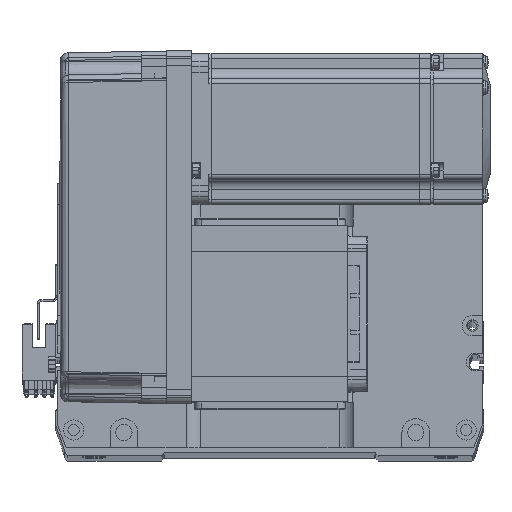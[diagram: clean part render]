
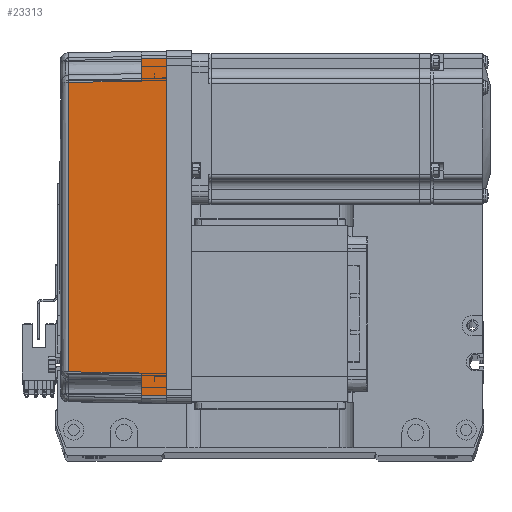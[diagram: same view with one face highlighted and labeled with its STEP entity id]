
A CAD part, top view. The second image highlights one B-rep face of the part: STEP entity #23313.
In plain terms, the highlighted planar face has unit normal (-0.018, 0, 1) as drawn and (0, 1, 0.017) by its records, which use the part's own axes.
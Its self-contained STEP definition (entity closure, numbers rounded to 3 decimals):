
#991 = ORIENTED_EDGE ( 'NONE', *, *, #30152, .T. ) ;
#993 = CARTESIAN_POINT ( 'NONE',  ( 57.495, 35.32, 38.985 ) ) ;
#1285 = VECTOR ( 'NONE', #43848, 1000. ) ;
#1771 = AXIS2_PLACEMENT_3D ( 'NONE', #36683, #2119, #32144 ) ;
#1834 = EDGE_CURVE ( 'NONE', #41063, #12658, #15499, .T. ) ;
#2119 = DIRECTION ( 'NONE',  ( 0., 1., 0.017 ) ) ;
#2240 = VERTEX_POINT ( 'NONE', #12297 ) ;
#2724 = EDGE_CURVE ( 'NONE', #58835, #6619, #10722, .T. ) ;
#2737 = CARTESIAN_POINT ( 'NONE',  ( -67., 36., 0. ) ) ;
#4429 = CARTESIAN_POINT ( 'NONE',  ( 57.495, 35.32, 38.985 ) ) ;
#5240 = VERTEX_POINT ( 'NONE', #993 ) ;
#5956 = LINE ( 'NONE', #50220, #33223 ) ;
#6315 = DIRECTION ( 'NONE',  ( 1., 0., 0. ) ) ;
#6383 = CARTESIAN_POINT ( 'NONE',  ( -66.826, 35.825, 10. ) ) ;
#6619 = VERTEX_POINT ( 'NONE', #30686 ) ;
#6959 = VECTOR ( 'NONE', #14252, 1000. ) ;
#7512 = VERTEX_POINT ( 'NONE', #6383 ) ;
#8087 = CARTESIAN_POINT ( 'NONE',  ( -19.165, 35.316, 39.181 ) ) ;
#10191 = LINE ( 'NONE', #35873, #21810 ) ;
#10722 = LINE ( 'NONE', #27002, #48908 ) ;
#12297 = CARTESIAN_POINT ( 'NONE',  ( 58., 35.825, 10. ) ) ;
#12433 = DIRECTION ( 'NONE',  ( -0.017, -0.017, 1. ) ) ;
#12658 = VERTEX_POINT ( 'NONE', #18657 ) ;
#12694 = CARTESIAN_POINT ( 'NONE',  ( 19.165, 35.316, 39.181 ) ) ;
#12971 = EDGE_CURVE ( 'NONE', #7512, #41063, #63685, .T. ) ;
#13140 = DIRECTION ( 'NONE',  ( 1., 0., 0. ) ) ;
#14252 = DIRECTION ( 'NONE',  ( 0.017, -0.017, 1. ) ) ;
#14853 = CARTESIAN_POINT ( 'NONE',  ( 70., 35.825, 10. ) ) ;
#14893 = B_SPLINE_CURVE_WITH_KNOTS ( 'NONE', 3,
 ( #38093, #8087, #12694, #62557 ),
 .UNSPECIFIED., .F., .F.,
 ( 4, 4 ),
 ( 0., 1. ),
 .UNSPECIFIED. ) ;
#15499 = LINE ( 'NONE', #49315, #6959 ) ;
#17296 = CARTESIAN_POINT ( 'NONE',  ( 67., 36., 0. ) ) ;
#18598 = LINE ( 'NONE', #62835, #58387 ) ;
#18657 = CARTESIAN_POINT ( 'NONE',  ( -57.495, 35.32, 38.985 ) ) ;
#19057 = ORIENTED_EDGE ( 'NONE', *, *, #26815, .T. ) ;
#20315 = DIRECTION ( 'NONE',  ( 0.017, -0.017, 1. ) ) ;
#21225 = ORIENTED_EDGE ( 'NONE', *, *, #33577, .F. ) ;
#21810 = VECTOR ( 'NONE', #6315, 1000. ) ;
#23313 = ADVANCED_FACE ( 'NONE', ( #42713 ), #56357, .T. ) ;
#23608 = DIRECTION ( 'NONE',  ( 0.017, 0.017, -1. ) ) ;
#23980 = LINE ( 'NONE', #4429, #46611 ) ;
#25058 = ORIENTED_EDGE ( 'NONE', *, *, #1834, .T. ) ;
#26815 = EDGE_CURVE ( 'NONE', #12658, #5240, #14893, .T. ) ;
#27002 = CARTESIAN_POINT ( 'NONE',  ( 67.001, 36.001, -0.052 ) ) ;
#27318 = ORIENTED_EDGE ( 'NONE', *, *, #12971, .T. ) ;
#30152 = EDGE_CURVE ( 'NONE', #58874, #7512, #5956, .T. ) ;
#30686 = CARTESIAN_POINT ( 'NONE',  ( 66.826, 35.825, 10. ) ) ;
#32144 = DIRECTION ( 'NONE',  ( 0., -0.017, 1. ) ) ;
#33100 = EDGE_CURVE ( 'NONE', #2240, #6619, #10191, .T. ) ;
#33223 = VECTOR ( 'NONE', #20315, 1000. ) ;
#33577 = EDGE_CURVE ( 'NONE', #58874, #58835, #18598, .T. ) ;
#35873 = CARTESIAN_POINT ( 'NONE',  ( 70., 35.825, 10. ) ) ;
#36189 = ORIENTED_EDGE ( 'NONE', *, *, #2724, .F. ) ;
#36683 = CARTESIAN_POINT ( 'NONE',  ( 70., 36., 0. ) ) ;
#38093 = CARTESIAN_POINT ( 'NONE',  ( -57.495, 35.32, 38.985 ) ) ;
#41063 = VERTEX_POINT ( 'NONE', #55446 ) ;
#42713 = FACE_OUTER_BOUND ( 'NONE', #49334, .T. ) ;
#43848 = DIRECTION ( 'NONE',  ( 1., 0., 0. ) ) ;
#46611 = VECTOR ( 'NONE', #23608, 1000. ) ;
#47077 = ORIENTED_EDGE ( 'NONE', *, *, #33100, .T. ) ;
#48908 = VECTOR ( 'NONE', #12433, 1000. ) ;
#49315 = CARTESIAN_POINT ( 'NONE',  ( -58., 35.825, 10. ) ) ;
#49334 = EDGE_LOOP ( 'NONE', ( #991, #27318, #25058, #19057, #54148, #47077, #36189, #21225 ) ) ;
#50220 = CARTESIAN_POINT ( 'NONE',  ( -67., 36., 0. ) ) ;
#53064 = EDGE_CURVE ( 'NONE', #5240, #2240, #23980, .T. ) ;
#54148 = ORIENTED_EDGE ( 'NONE', *, *, #53064, .T. ) ;
#55446 = CARTESIAN_POINT ( 'NONE',  ( -58., 35.825, 10. ) ) ;
#56357 = PLANE ( 'NONE',  #1771 ) ;
#58387 = VECTOR ( 'NONE', #13140, 1000. ) ;
#58835 = VERTEX_POINT ( 'NONE', #17296 ) ;
#58874 = VERTEX_POINT ( 'NONE', #2737 ) ;
#62557 = CARTESIAN_POINT ( 'NONE',  ( 57.495, 35.32, 38.985 ) ) ;
#62835 = CARTESIAN_POINT ( 'NONE',  ( 0., 36., 0. ) ) ;
#63685 = LINE ( 'NONE', #14853, #1285 ) ;
